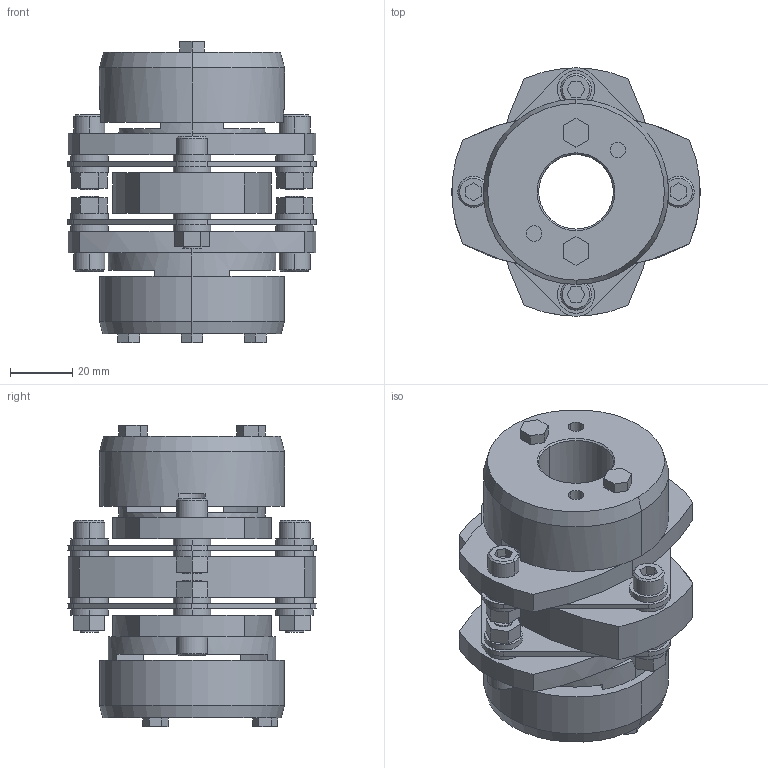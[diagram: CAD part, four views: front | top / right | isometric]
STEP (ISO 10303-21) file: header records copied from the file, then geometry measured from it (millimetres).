
FILE_DESCRIPTION((''),'2;1');
FILE_NAME('LCD-80T7-24×35.stp','2011-09-15T15:51:30',(''),(''),'AutoCAD STEP 2000i','AutoCAD 2000i',', , ');
FILE_SCHEMA(('CONFIG_CONTROL_DESIGN'));
Length unit declared in the file: millimetre
Products named in the file (14): LCD-80T7-24×35; 忣兜1; LC80T7-T035; LC80T7-T032; LC80T7-T030; LC80T7-T028; LC80T7-T024-1; LC80T7-T024; LC80T7-T022; LC80T7-T019-1; LC80T7-T019; LC80T7-T017-1; LC80T7-T017; LCD80-ITA
Assembly tree (13 placements, depth 2):
  LCD-80T7-24×35
    忣兜1
    LC80T7-T035
    LC80T7-T032
    LC80T7-T030
    LC80T7-T028
    LC80T7-T024-1
    LC80T7-T024
    LC80T7-T022
    LC80T7-T019-1
    LC80T7-T019
    LC80T7-T017-1
    LC80T7-T017
    LCD80-ITA
Bounding box: 80 x 79.95 x 96.8 mm (x, y, z)
Volume: 184182.6 mm3; surface area: 58867.7 mm2
Topology: 1 solids, 1 shells, 320 faces, 782 edges, 512 vertices
Faces by surface type: plane 174, cylinder 122, cone 24
Entity records: 9787 total; most frequent: DIRECTION 1746, CARTESIAN_POINT 1628, ORIENTED_EDGE 1564, EDGE_CURVE 782, AXIS2_PLACEMENT_3D 630, VERTEX_POINT 512, VECTOR 486, LINE 486
